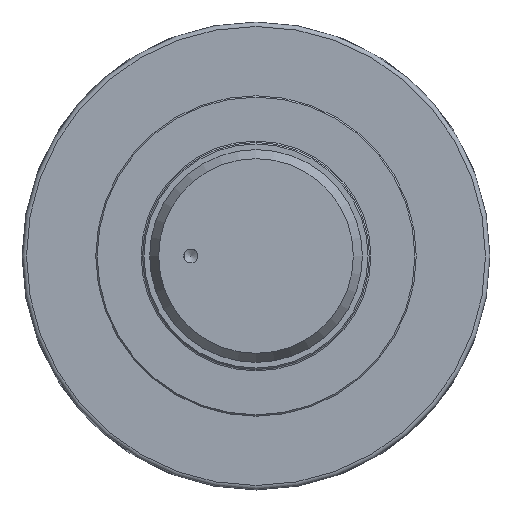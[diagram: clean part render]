
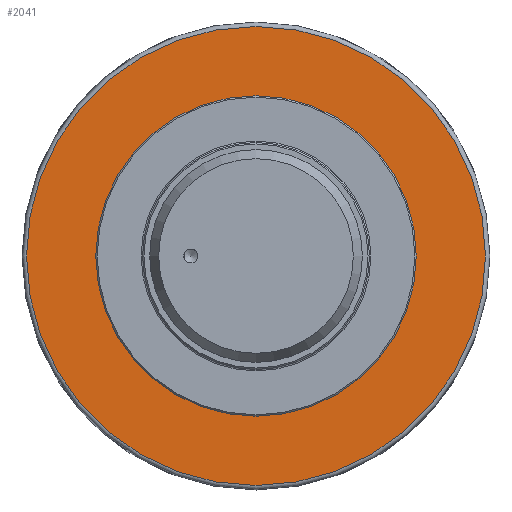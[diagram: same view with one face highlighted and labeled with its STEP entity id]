
A CAD part, left-side view. The second image highlights one B-rep face of the part: STEP entity #2041.
In plain terms, the highlighted planar face has unit normal (-1, 0, 0).
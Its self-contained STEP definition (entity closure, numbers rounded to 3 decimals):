
#68=FACE_BOUND('',#413,.T.);
#135=CIRCLE('',#2236,80.911);
#136=CIRCLE('',#2237,80.911);
#137=CIRCLE('',#2238,55.5);
#282=FACE_OUTER_BOUND('',#412,.T.);
#412=EDGE_LOOP('',(#1750,#1751));
#413=EDGE_LOOP('',(#1752));
#957=VERTEX_POINT('',#3455);
#958=VERTEX_POINT('',#3456);
#959=VERTEX_POINT('',#3459);
#1233=EDGE_CURVE('',#957,#958,#135,.T.);
#1234=EDGE_CURVE('',#958,#957,#136,.T.);
#1235=EDGE_CURVE('',#959,#959,#137,.T.);
#1750=ORIENTED_EDGE('',*,*,#1233,.F.);
#1751=ORIENTED_EDGE('',*,*,#1234,.F.);
#1752=ORIENTED_EDGE('',*,*,#1235,.F.);
#1947=PLANE('',#2235);
#2041=ADVANCED_FACE('',(#282,#68),#1947,.T.);
#2235=AXIS2_PLACEMENT_3D('',#3454,#2767,#2768);
#2236=AXIS2_PLACEMENT_3D('',#3457,#2769,#2770);
#2237=AXIS2_PLACEMENT_3D('',#3458,#2771,#2772);
#2238=AXIS2_PLACEMENT_3D('',#3460,#2773,#2774);
#2767=DIRECTION('center_axis',(-1.,0.,0.));
#2768=DIRECTION('ref_axis',(0.,-1.,0.));
#2769=DIRECTION('center_axis',(1.,0.,0.));
#2770=DIRECTION('ref_axis',(0.,0.,
-1.));
#2771=DIRECTION('center_axis',(1.,0.,0.));
#2772=DIRECTION('ref_axis',(0.,0.,
-1.));
#2773=DIRECTION('center_axis',(-1.,0.,0.));
#2774=DIRECTION('ref_axis',(0.,-1.,0.));
#3454=CARTESIAN_POINT('Origin',(-21.331,7.21,72.397));
#3455=CARTESIAN_POINT('',(-21.331,7.21,80.911));
#3456=CARTESIAN_POINT('',(-21.331,-73.701,0.));
#3457=CARTESIAN_POINT('Origin',(-21.331,7.21,0.));
#3458=CARTESIAN_POINT('Origin',(-21.331,7.21,0.));
#3459=CARTESIAN_POINT('',(-21.331,62.71,0.));
#3460=CARTESIAN_POINT('Origin',(-21.331,7.21,0.));
